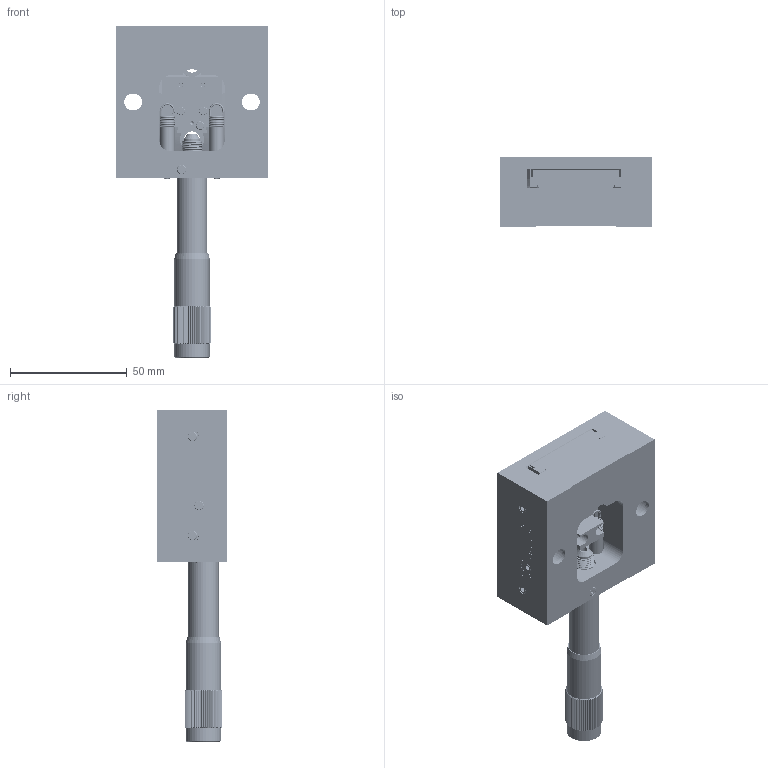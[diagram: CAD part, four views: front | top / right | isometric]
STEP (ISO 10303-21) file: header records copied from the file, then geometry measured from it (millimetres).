
FILE_DESCRIPTION (( 'STEP AP214' ), '1' );
FILE_NAME ('gon65-u_m_asm.STEP', '2022-07-07T04:05:40', ( '' ), ( '' ), 'SwSTEP 2.0', 'SolidWorks 2021', '' );
FILE_SCHEMA (( 'AUTOMOTIVE_DESIGN' ));
Length unit declared in the file: millimetre
Products named in the file (19): M4X11_HM; SM25_A4; gon65-u_m_asm(2); M4X5_HS_2; GON65-U_M_A1; sm25_asm; SM25_A1; GON65-L-M_A3; SM25_A6; M2X5_HM; SPRING_6X22; SPACER_6X2; GON65-U_M_A2; GON65-L-M_A4; gon65-u_m_asm; AXLE_1_6X11; SM25_A2; SM25_A3; M2X10_HM
Assembly tree (24 placements, depth 3):
  gon65-u_m_asm
    gon65-u_m_asm(2)
      GON65-U_M_A1
      GON65-U_M_A2
      GON65-L-M_A3
      SPACER_6X2
      M2X10_HM  x4
      M4X5_HS_2
      GON65-L-M_A4
      SPRING_6X22
      M4X11_HM  x3
      AXLE_1_6X11  x2
      M2X5_HM
    sm25_asm
      SM25_A1
      SM25_A2
      SM25_A3
      SM25_A4
      SM25_A6
Bounding box: 65 x 30 x 142 mm (x, y, z)
Volume: 103746.1 mm3; surface area: 52323.4 mm2
Topology: 23 solids, 23 shells, 2428 faces, 6481 edges, 4133 vertices
Faces by surface type: cylinder 1058, plane 640, bspline 477, cone 159, torus 94
Entity records: 170982 total; most frequent: CARTESIAN_POINT 119097, ORIENTED_EDGE 12436, DIRECTION 7756, EDGE_CURVE 6218, VERTEX_POINT 3989, B_SPLINE_CURVE_WITH_KNOTS 3143, AXIS2_PLACEMENT_3D 2805, EDGE_LOOP 2439
